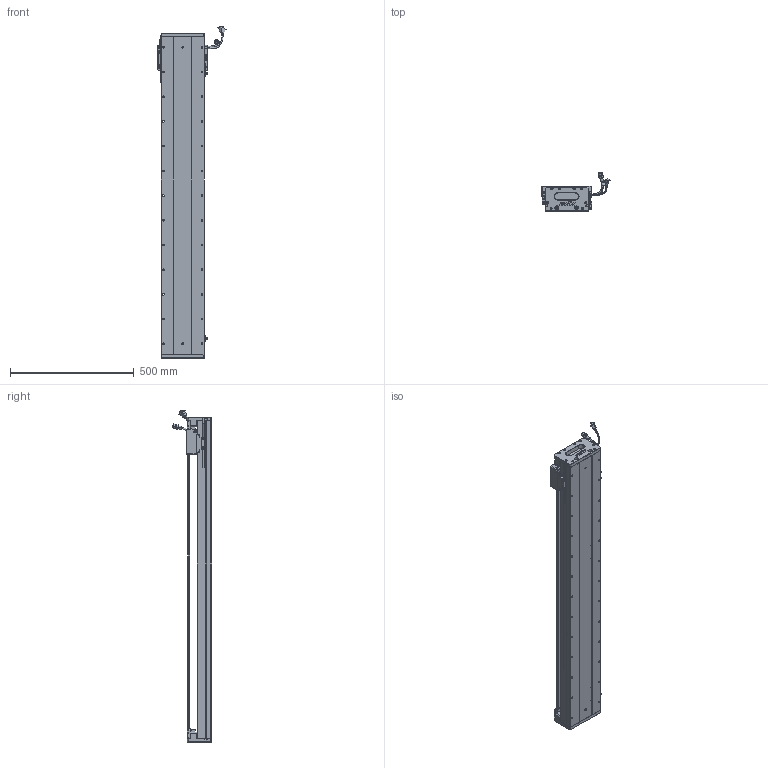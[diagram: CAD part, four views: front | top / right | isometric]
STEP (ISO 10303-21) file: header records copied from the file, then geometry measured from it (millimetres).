
FILE_DESCRIPTION (( 'STEP AP203' ), '1' );
FILE_NAME ('Z1-RY170D-1-L500-B-K.SLDASM_1100.step', '2021-05-17T08:52:29', ( '盈信电脑' ), ( '东莞市道滘镇水果街19号' ), 'SwSTEP 2.0', 'SolidWorks 2016', '' );
FILE_SCHEMA (( 'CONFIG_CONTROL_DESIGN' ));
Length unit declared in the file: millimetre
Products named in the file (36): PSLH080_PSLF2; SCALE-Part-2; Z-170詩湍傷裔啣; SCALE; 覜茼ん672; RY170直线电机感应器672光电感应片; 080黍杅芛假蚾釱21遴; COVER; SCREW-M1.7-1; SCREW-M1.7; Z-RY170詩湍狟揤裔; Z-RY170詩湍奻揤裔; HARNESS-Part-1; 140蚥薯蝶輸; SCREW-M1.6; Z1-RY170臏賑輸(21遴); 榋妏寠巭燃_暯_M2_2; PBU_SHEET; Z1-RY170-L500耀郪菁釱_1100; SEAL-Part-1; SEAL; LABEL; Z1-RY170-L500詩湍145mm遵_1100; SHIELDPLATE; SCALE-Part-1; LABEL-Part-1; Z1-RY170D-1-L500-B-K.SLDASM_1100; COVER-Part-1; 140雄赽晤鎢ん堤盄; HOLDER0; HARNESS-Part-2; HARNESS; SCREW-M1.6-3; SCREW-M1.6-1; SCREW-M1.6-2; 170-Z-臏賑輸盄裔(21遴)
Assembly tree (41 placements, depth 4):
  Z1-RY170D-1-L500-B-K.SLDASM_1100
    Z1-RY170-L500耀郪菁釱_1100
    RY170直线电机感应器672光电感应片
    Z1-RY170臏賑輸(21遴)
    覜茼ん672  x3
    PSLH080_PSLF2
      SCALE
        SCALE-Part-1
        SCALE-Part-2
      HARNESS
        HARNESS-Part-1
        HARNESS-Part-2
      LABEL
        LABEL-Part-1
      COVER
        COVER-Part-1
      SEAL
        SEAL-Part-1
      榋妏寠巭燃_暯_M2_2
      SHIELDPLATE
      SCREW-M1.7
      SCREW-M1.7-1
      PBU_SHEET
      SCREW-M1.6
      SCREW-M1.6-1
      SCREW-M1.6-2
      SCREW-M1.6-3
      HOLDER0
    080黍杅芛假蚾釱21遴
    Z1-RY170-L500詩湍145mm遵_1100
    Z-170詩湍傷裔啣  x2
    Z-RY170詩湍奻揤裔  x2
    Z-RY170詩湍狟揤裔  x2
    140蚥薯蝶輸  x2
    170-Z-臏賑輸盄裔(21遴)
    140雄赽晤鎢ん堤盄
Bounding box: 275.34 x 158.11 x 1343.72 mm (x, y, z)
Volume: 6943226.6 mm3; surface area: 1727075.9 mm2
Topology: 36 solids, 36 shells, 3122 faces, 8425 edges, 5293 vertices
Faces by surface type: cylinder 1444, plane 1168, cone 388, torus 69, bspline 53
Entity records: 92785 total; most frequent: CARTESIAN_POINT 24262, ORIENTED_EDGE 13646, DIRECTION 13231, EDGE_CURVE 6823, AXIS2_PLACEMENT_3D 4828, VERTEX_POINT 4411, LINE 3575, VECTOR 3575
